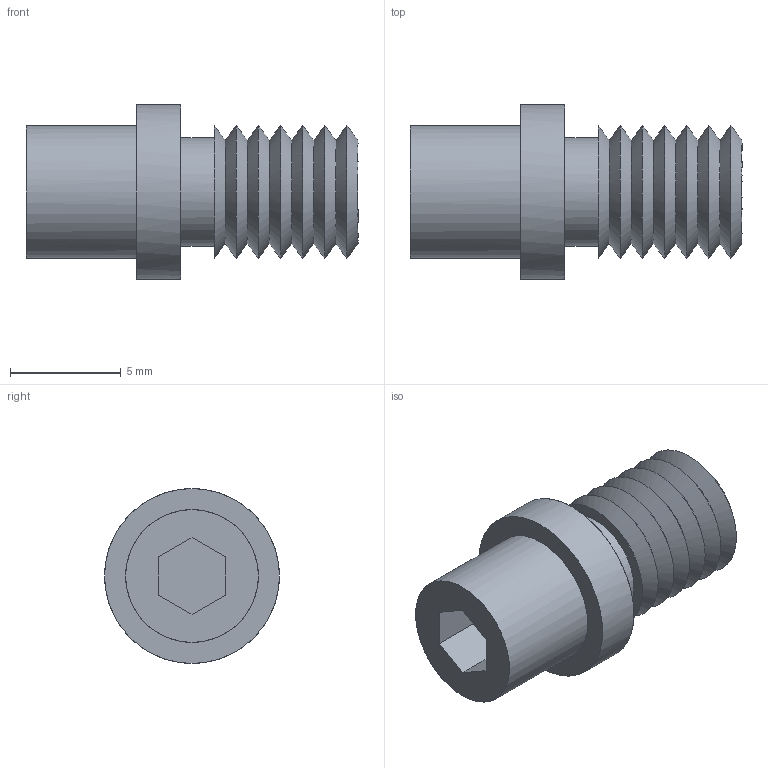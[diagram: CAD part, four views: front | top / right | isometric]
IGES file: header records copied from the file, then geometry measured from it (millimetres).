
Global section: native system: Kubotek KeyCreator; preprocessor: KCM Version 1.1.1442.0; author: KeyCreator User; organization: Self; date: 20200429.024056; units: millimetre
Bounding box: 15 x 7.9 x 7.9 mm (x, y, z)
Surface area: 486 mm2 (no closed solid volume)
Topology: 0 solids, 0 shells, 28 faces, 228 edges, 196 vertices
Faces by surface type: bspline 28
